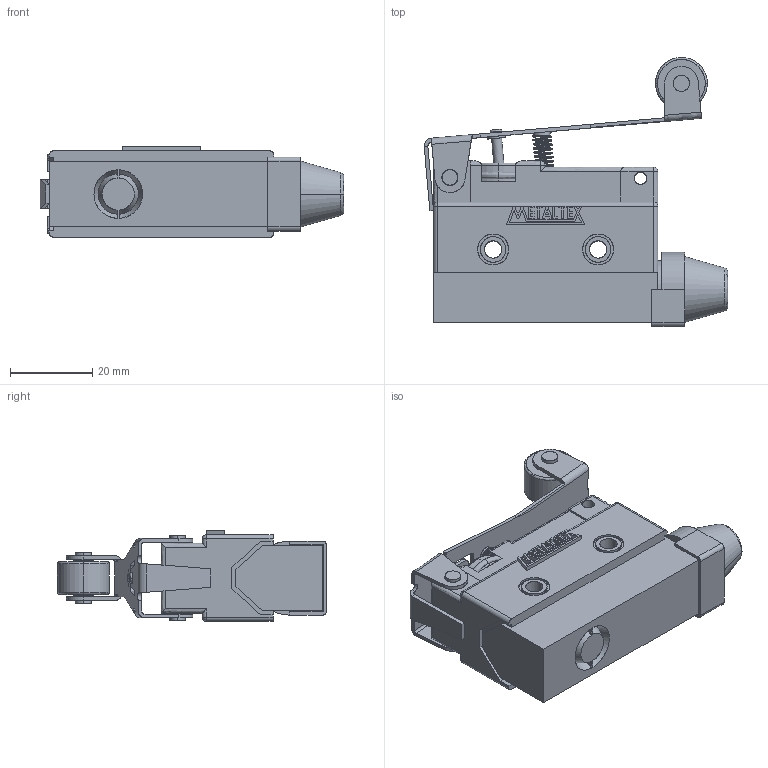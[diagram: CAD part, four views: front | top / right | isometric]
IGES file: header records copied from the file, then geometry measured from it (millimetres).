
Start section: SolidWorks IGES file using analytic representation for surfaces
Global section: file name: D:\X - Arquivos\PROEX\Empresas\P11 - METALTEX\01 - Produtos\IGES\4ª remessa\1ª etapa\FM7121.IGS; native system: SolidWorks 2012; preprocessor: SolidWorks 2012; author: Usuario; date: 180323.101712; units: millimetre
Bounding box: 73.76 x 65.37 x 22 mm (x, y, z)
Surface area: 14244 mm2 (no closed solid volume)
Topology: 0 solids, 0 shells, 425 faces, 5208 edges, 5179 vertices
Faces by surface type: bspline 277, revolution 148
